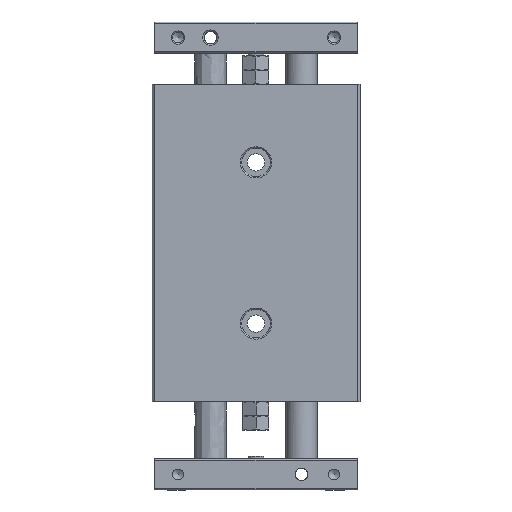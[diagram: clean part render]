
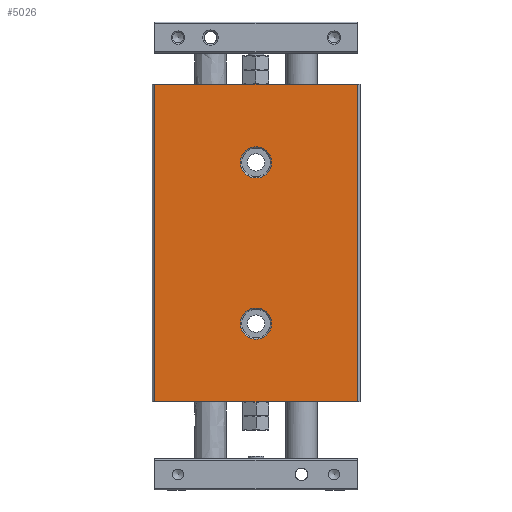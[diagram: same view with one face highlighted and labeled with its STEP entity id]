
A CAD part, front view. The second image highlights one B-rep face of the part: STEP entity #5026.
In plain terms, the highlighted planar face has unit normal (0, -1, 0).
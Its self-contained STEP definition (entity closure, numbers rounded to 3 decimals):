
#2319=CARTESIAN_POINT('',(39.0,-15.0,0.0));
#2320=VERTEX_POINT('',#2319);
#2327=CARTESIAN_POINT('',(-39.0,-15.0,0.0));
#2328=VERTEX_POINT('',#2327);
#2329=CARTESIAN_POINT('',(-39.0,-15.0,0.0));
#2330=DIRECTION('',(1.0,0.0,0.0));
#2331=VECTOR('',#2330,78.0);
#2332=LINE('',#2329,#2331);
#2333=EDGE_CURVE('',#2328,#2320,#2332,.T.);
#2960=CARTESIAN_POINT('',(-39.0,-15.0,122.));
#2961=VERTEX_POINT('',#2960);
#2968=CARTESIAN_POINT('',(39.0,-15.0,122.));
#2969=VERTEX_POINT('',#2968);
#2970=CARTESIAN_POINT('',(39.0,-15.0,122.));
#2971=DIRECTION('',(-1.0,0.0,0.0));
#2972=VECTOR('',#2971,78.0);
#2973=LINE('',#2970,#2972);
#2974=EDGE_CURVE('',#2969,#2961,#2973,.T.);
#4979=CARTESIAN_POINT('',(6.,-15.0,92.));
#4980=VERTEX_POINT('',#4979);
#4981=CARTESIAN_POINT('',(0.0,-15.0,92.));
#4982=DIRECTION('',(0.0,-1.0,0.0));
#4983=DIRECTION('',(-1.0,0.0,0.0));
#4984=AXIS2_PLACEMENT_3D('',#4981,#4982,#4983);
#4985=CIRCLE('',#4984,6.);
#4986=EDGE_CURVE('',#4980,#4980,#4985,.T.);
#4991=CARTESIAN_POINT('',(40.0,-15.0,0.0));
#4992=DIRECTION('',(0.0,-1.0,0.0));
#4993=DIRECTION('',(0.0,0.0,-1.0));
#4994=AXIS2_PLACEMENT_3D('',#4991,#4992,#4993);
#4995=PLANE('',#4994);
#4996=CARTESIAN_POINT('',(39.0,-15.0,122.));
#4997=DIRECTION('',(0.0,0.0,-1.0));
#4998=VECTOR('',#4997,122.);
#4999=LINE('',#4996,#4998);
#5000=EDGE_CURVE('',#2969,#2320,#4999,.T.);
#5001=ORIENTED_EDGE('',*,*,#5000,.F.);
#5002=ORIENTED_EDGE('',*,*,#2974,.T.);
#5003=CARTESIAN_POINT('',(-39.0,-15.0,0.0));
#5004=DIRECTION('',(0.0,0.0,1.0));
#5005=VECTOR('',#5004,122.);
#5006=LINE('',#5003,#5005);
#5007=EDGE_CURVE('',#2328,#2961,#5006,.T.);
#5008=ORIENTED_EDGE('',*,*,#5007,.F.);
#5009=ORIENTED_EDGE('',*,*,#2333,.T.);
#5010=EDGE_LOOP('',(#5001,#5002,#5008,#5009));
#5011=FACE_OUTER_BOUND('',#5010,.T.);
#5012=CARTESIAN_POINT('',(6.,-15.0,30.0));
#5013=VERTEX_POINT('',#5012);
#5014=CARTESIAN_POINT('',(0.0,-15.0,30.0));
#5015=DIRECTION('',(0.0,-1.0,0.0));
#5016=DIRECTION('',(-1.0,0.0,0.0));
#5017=AXIS2_PLACEMENT_3D('',#5014,#5015,#5016);
#5018=CIRCLE('',#5017,6.);
#5019=EDGE_CURVE('',#5013,#5013,#5018,.T.);
#5020=ORIENTED_EDGE('',*,*,#5019,.F.);
#5021=EDGE_LOOP('',(#5020));
#5022=FACE_BOUND('',#5021,.T.);
#5023=ORIENTED_EDGE('',*,*,#4986,.F.);
#5024=EDGE_LOOP('',(#5023));
#5025=FACE_BOUND('',#5024,.T.);
#5026=ADVANCED_FACE('',(#5011,#5022,#5025),#4995,.T.);
